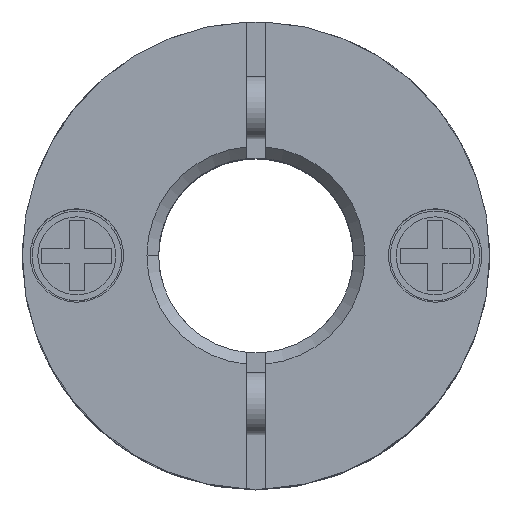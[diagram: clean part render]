
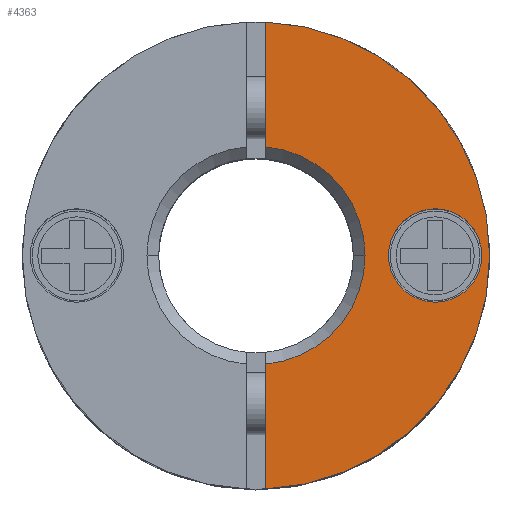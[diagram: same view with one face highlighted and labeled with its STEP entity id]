
A CAD part, top view. The second image highlights one B-rep face of the part: STEP entity #4363.
In plain terms, the highlighted planar face has unit normal (0, 0, 1).
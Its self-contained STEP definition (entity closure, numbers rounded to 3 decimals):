
#2001=CARTESIAN_POINT('',(6.,0.,6.2));
#2002=VERTEX_POINT('',#2001);
#2009=CARTESIAN_POINT('',(0.25,-5.995,6.2));
#2010=VERTEX_POINT('',#2009);
#2011=CARTESIAN_POINT('',(0.,0.,6.2));
#2012=DIRECTION('',(0.0,0.0,-1.0));
#2013=DIRECTION('',(-1.0,0.0,0.0));
#2014=AXIS2_PLACEMENT_3D('',#2011,#2012,#2013);
#2015=CIRCLE('',#2014,6.0);
#2016=EDGE_CURVE('',#2002,#2010,#2015,.T.);
#2216=CARTESIAN_POINT('',(2.8,0.,6.2));
#2217=VERTEX_POINT('',#2216);
#2225=CARTESIAN_POINT('',(0.25,-2.789,6.2));
#2226=VERTEX_POINT('',#2225);
#2240=CARTESIAN_POINT('',(0.,0.,6.2));
#2241=DIRECTION('',(0.0,0.0,1.0));
#2242=DIRECTION('',(1.0,0.0,0.0));
#2243=AXIS2_PLACEMENT_3D('',#2240,#2241,#2242);
#2244=CIRCLE('',#2243,2.8);
#2245=EDGE_CURVE('',#2226,#2217,#2244,.T.);
#2297=CARTESIAN_POINT('',(3.4,0.,6.2));
#2298=VERTEX_POINT('',#2297);
#2307=CARTESIAN_POINT('',(5.8,0.,6.2));
#2308=VERTEX_POINT('',#2307);
#2309=CARTESIAN_POINT('',(4.6,0.,6.2));
#2310=DIRECTION('',(0.0,0.0,-1.0));
#2311=DIRECTION('',(-1.0,0.0,0.0));
#2312=AXIS2_PLACEMENT_3D('',#2309,#2310,#2311);
#2313=CIRCLE('',#2312,1.2);
#2314=EDGE_CURVE('',#2308,#2298,#2313,.T.);
#4032=CARTESIAN_POINT('',(4.6,0.,6.2));
#4033=DIRECTION('',(0.0,0.0,-1.0));
#4034=DIRECTION('',(-1.0,0.0,0.0));
#4035=AXIS2_PLACEMENT_3D('',#4032,#4033,#4034);
#4036=CIRCLE('',#4035,1.2);
#4037=EDGE_CURVE('',#2298,#2308,#4036,.T.);
#4099=CARTESIAN_POINT('',(0.25,-2.789,6.2));
#4100=DIRECTION('',(0.0,-1.0,0.0));
#4101=VECTOR('',#4100,3.206);
#4102=LINE('',#4099,#4101);
#4103=EDGE_CURVE('',#2226,#2010,#4102,.T.);
#4196=CARTESIAN_POINT('',(0.25,2.789,6.2));
#4197=VERTEX_POINT('',#4196);
#4211=CARTESIAN_POINT('',(0.25,5.995,6.2));
#4212=VERTEX_POINT('',#4211);
#4213=CARTESIAN_POINT('',(0.25,5.995,6.2));
#4214=DIRECTION('',(0.0,-1.0,0.0));
#4215=VECTOR('',#4214,3.206);
#4216=LINE('',#4213,#4215);
#4217=EDGE_CURVE('',#4212,#4197,#4216,.T.);
#4334=CARTESIAN_POINT('',(-0.545,0.,6.2));
#4335=DIRECTION('',(0.0,0.0,1.0));
#4336=DIRECTION('',(-1.0,0.0,0.0));
#4337=AXIS2_PLACEMENT_3D('',#4334,#4335,#4336);
#4338=PLANE('',#4337);
#4339=ORIENTED_EDGE('',*,*,#4217,.T.);
#4340=CARTESIAN_POINT('',(0.,0.,6.2));
#4341=DIRECTION('',(0.0,0.0,1.0));
#4342=DIRECTION('',(1.0,0.0,0.0));
#4343=AXIS2_PLACEMENT_3D('',#4340,#4341,#4342);
#4344=CIRCLE('',#4343,2.8);
#4345=EDGE_CURVE('',#2217,#4197,#4344,.T.);
#4346=ORIENTED_EDGE('',*,*,#4345,.F.);
#4347=ORIENTED_EDGE('',*,*,#2245,.F.);
#4348=ORIENTED_EDGE('',*,*,#4103,.T.);
#4349=ORIENTED_EDGE('',*,*,#2016,.F.);
#4350=CARTESIAN_POINT('',(0.,0.,6.2));
#4351=DIRECTION('',(0.0,0.0,-1.0));
#4352=DIRECTION('',(-1.0,0.0,0.0));
#4353=AXIS2_PLACEMENT_3D('',#4350,#4351,#4352);
#4354=CIRCLE('',#4353,6.0);
#4355=EDGE_CURVE('',#4212,#2002,#4354,.T.);
#4356=ORIENTED_EDGE('',*,*,#4355,.F.);
#4357=EDGE_LOOP('',(#4339,#4346,#4347,#4348,#4349,#4356));
#4358=FACE_OUTER_BOUND('',#4357,.T.);
#4359=ORIENTED_EDGE('',*,*,#4037,.T.);
#4360=ORIENTED_EDGE('',*,*,#2314,.T.);
#4361=EDGE_LOOP('',(#4359,#4360));
#4362=FACE_BOUND('',#4361,.T.);
#4363=ADVANCED_FACE('',(#4358,#4362),#4338,.T.);
